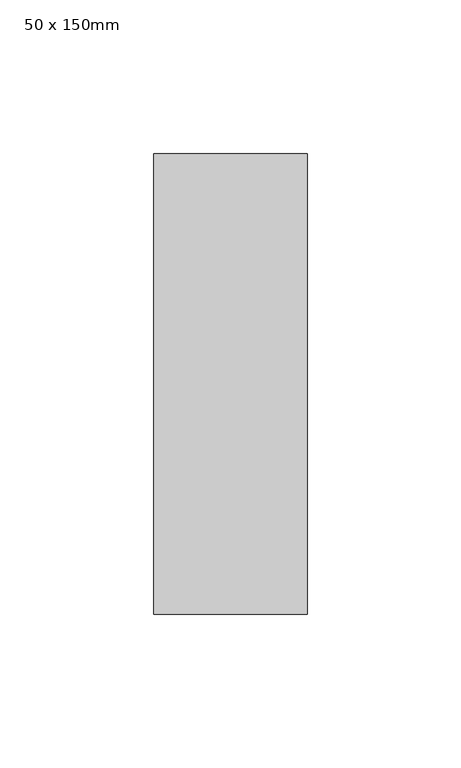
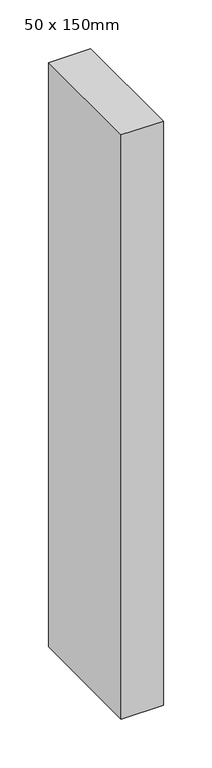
"""IFC4 building model written with IfcOpenShell, lengths in millimetres: member geometry, Прямоугольный импост : 50 x 150mm."""

from ifc_helpers import new_model, si_unit, frame, origin, place, context, project, spatial, polyline, outline, extrude, source, transform, mapped, element, save


def member_50_x_150mm_c15ffe9f(model_context):
    return source(origin(), model_context, "Body", "SweptSolid", [
        extrude(outline(polyline([(0.0, 75.0), (0.0, -75.0), (-50.0, -75.0), (-50.0, 75.0), (0.0, 75.0)])), frame((0.0, 0.0, -734.0774077), z_axis=(0.0, 0.0, 1.0), x_axis=(1.0, 0.0, 0.0)), (0.0, 0.0, 1.0), 734.0774077),
    ])


if __name__ == "__main__":
    model = new_model("IFC4")
    model_context = context("Model", 3, world=origin())
    ifc_project = project(units=[si_unit("LENGTHUNIT", "METRE", prefix="MILLI")], contexts=[model_context])
    site = spatial("IfcSite", under=ifc_project)
    building = spatial("IfcBuilding", under=site)
    placement = place(None, origin())
    member_50_x_150mm_shape = member_50_x_150mm_c15ffe9f(model_context)
    element("IfcMember", 1, ObjectType="Прямоугольный импост : 50 x 150mm", at=placement, inside=building, context=model_context, shape_type="MappedRepresentation", body=[
        mapped(member_50_x_150mm_shape, transform((0.0, 0.0, 0.0), x_axis=(1.0, 0.0, 0.0), y_axis=(0.0, 1.0, 0.0), z_axis=(0.0, 0.0, 1.0))),
    ])
    save(model, "model.ifc")
